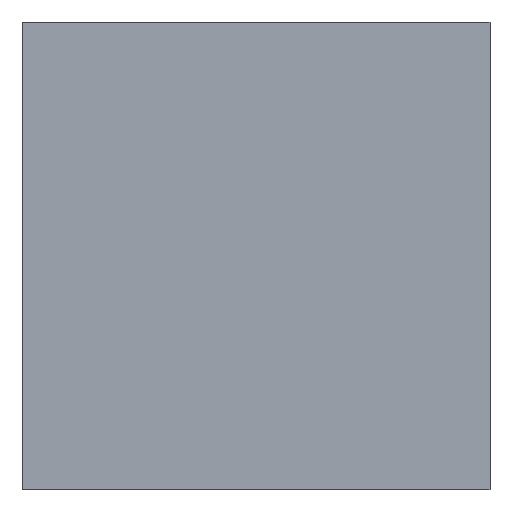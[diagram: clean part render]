
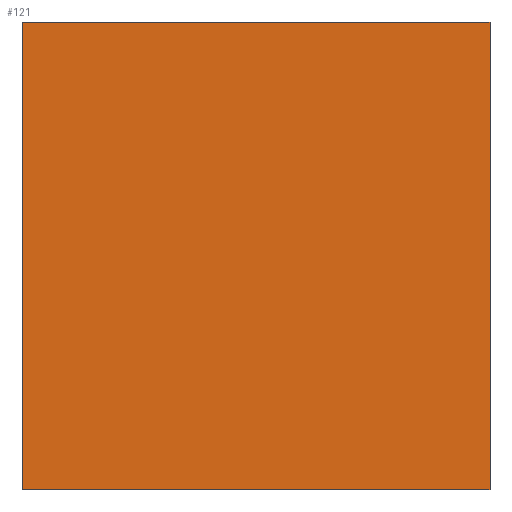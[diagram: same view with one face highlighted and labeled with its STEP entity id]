
A CAD part, left-side view. The second image highlights one B-rep face of the part: STEP entity #121.
In plain terms, the highlighted planar face has unit normal (-1, 0, 0).
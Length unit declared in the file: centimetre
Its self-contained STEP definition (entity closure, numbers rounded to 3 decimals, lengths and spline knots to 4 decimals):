
#1 = VERTEX_POINT ( 'NONE', #490 ) ;
#32 = CARTESIAN_POINT ( 'NONE',  ( 0., 1000., 0. ) ) ;
#45 = VECTOR ( 'NONE', #340, 100. ) ;
#52 = EDGE_CURVE ( 'NONE', #92, #1, #144, .T. ) ;
#59 = ORIENTED_EDGE ( 'NONE', *, *, #213, .T. ) ;
#74 = CARTESIAN_POINT ( 'NONE',  ( 0., 1000., 1000. ) ) ;
#90 = VERTEX_POINT ( 'NONE', #296 ) ;
#92 = VERTEX_POINT ( 'NONE', #251 ) ;
#108 = FACE_OUTER_BOUND ( 'NONE', #215, .T. ) ;
#121 = ADVANCED_FACE ( 'NONE', ( #108 ), #235, .F. ) ;
#144 = LINE ( 'NONE', #402, #477 ) ;
#146 = DIRECTION ( 'NONE',  ( 1., 0., 0. ) ) ;
#153 = ORIENTED_EDGE ( 'NONE', *, *, #457, .T. ) ;
#186 = LINE ( 'NONE', #32, #329 ) ;
#194 = DIRECTION ( 'NONE',  ( 0., 0., -1. ) ) ;
#209 = CARTESIAN_POINT ( 'NONE',  ( 0., 1000., 1000. ) ) ;
#211 = ORIENTED_EDGE ( 'NONE', *, *, #435, .F. ) ;
#213 = EDGE_CURVE ( 'NONE', #90, #1, #186, .T. ) ;
#215 = EDGE_LOOP ( 'NONE', ( #59, #427, #211, #153 ) ) ;
#219 = DIRECTION ( 'NONE',  ( 0., 0., -1. ) ) ;
#235 = PLANE ( 'NONE',  #255 ) ;
#251 = CARTESIAN_POINT ( 'NONE',  ( 0., 0., 1000. ) ) ;
#255 = AXIS2_PLACEMENT_3D ( 'NONE', #305, #146, #194 ) ;
#273 = LINE ( 'NONE', #74, #45 ) ;
#286 = VECTOR ( 'NONE', #377, 100. ) ;
#296 = CARTESIAN_POINT ( 'NONE',  ( 0., 1000., 0. ) ) ;
#305 = CARTESIAN_POINT ( 'NONE',  ( 0., 1000., 1000. ) ) ;
#311 = VERTEX_POINT ( 'NONE', #209 ) ;
#329 = VECTOR ( 'NONE', #342, 100. ) ;
#340 = DIRECTION ( 'NONE',  ( 0., -1., 0. ) ) ;
#342 = DIRECTION ( 'NONE',  ( 0., -1., 0. ) ) ;
#377 = DIRECTION ( 'NONE',  ( 0., 0., -1. ) ) ;
#381 = CARTESIAN_POINT ( 'NONE',  ( 0., 1000., 1000. ) ) ;
#402 = CARTESIAN_POINT ( 'NONE',  ( 0., 0., 1000. ) ) ;
#427 = ORIENTED_EDGE ( 'NONE', *, *, #52, .F. ) ;
#435 = EDGE_CURVE ( 'NONE', #311, #92, #273, .T. ) ;
#457 = EDGE_CURVE ( 'NONE', #311, #90, #488, .T. ) ;
#477 = VECTOR ( 'NONE', #219, 100. ) ;
#488 = LINE ( 'NONE', #381, #286 ) ;
#490 = CARTESIAN_POINT ( 'NONE',  ( 0., 0., 0. ) ) ;
